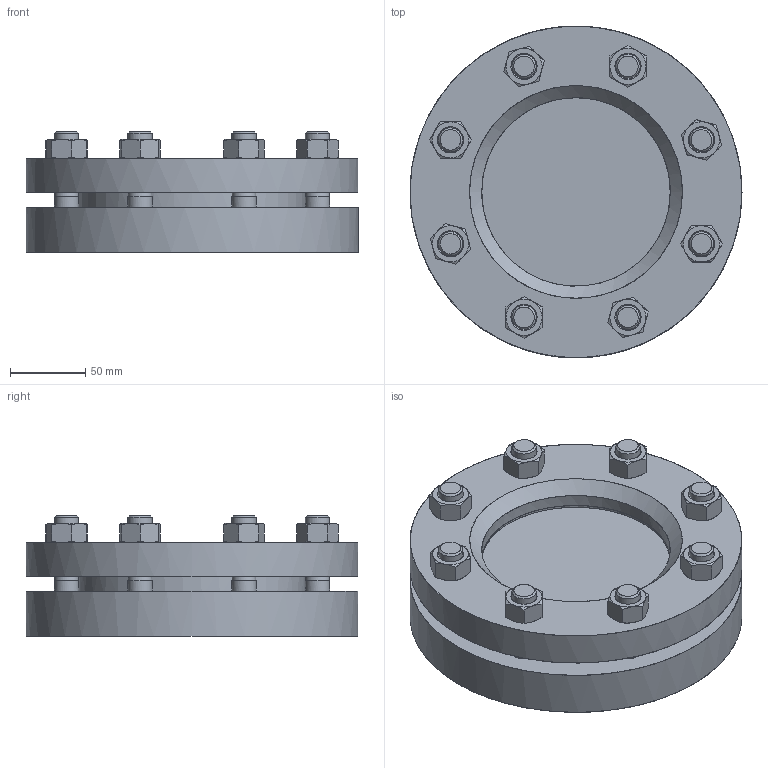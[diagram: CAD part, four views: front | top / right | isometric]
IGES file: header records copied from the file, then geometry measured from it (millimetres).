
Start section: C
Global section: file name: Armatur 28120  DN 100 PN10.igs; native system: By Siemens PLM Incorporated; preprocessor: XPlus GENERIC/IGES 18.0.17; author: Author; organization: Title; date: 20160808.073406; units: millimetre
Bounding box: 220 x 219.78 x 80 mm (x, y, z)
Surface area: 286955.6 mm2 (no closed solid volume)
Topology: 0 solids, 0 shells, 251 faces, 1390 edges, 1382 vertices
Faces by surface type: bspline 251
